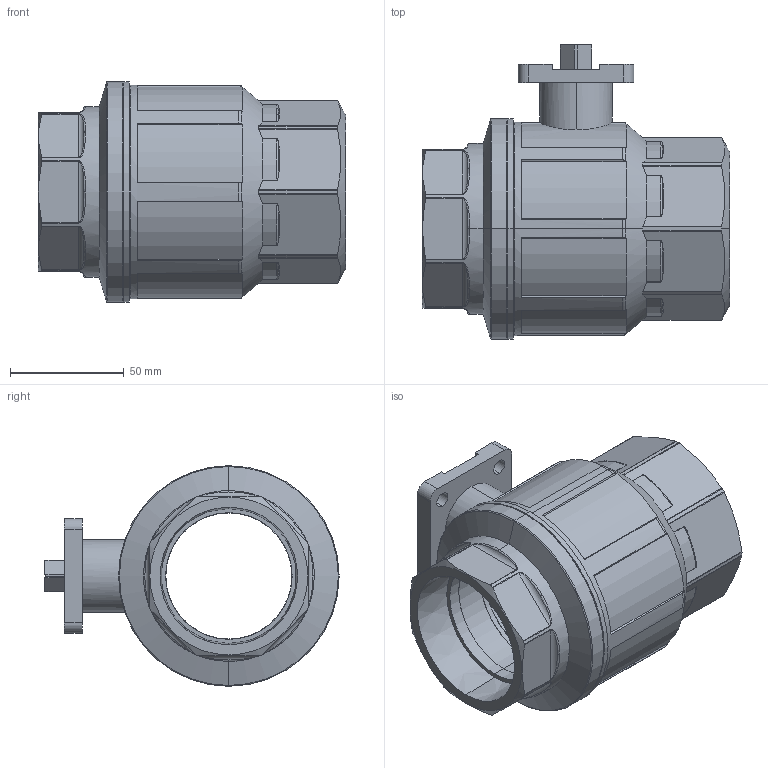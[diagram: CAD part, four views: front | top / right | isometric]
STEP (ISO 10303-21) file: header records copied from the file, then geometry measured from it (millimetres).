
FILE_DESCRIPTION (( 'STEP AP203' ), '1' );
FILE_NAME ('s2f-16.STEP', '2022-07-12T15:49:16', ( '' ), ( '' ), 'SwSTEP 2.0', 'SolidWorks 2021', '' );
FILE_SCHEMA (( 'CONFIG_CONTROL_DESIGN' ));
Length unit declared in the file: inch
Products named in the file (1): s2f-16
Bounding box: 134.87 x 129.12 x 96.77 mm (x, y, z)
Volume: 446060.2 mm3; surface area: 106652.5 mm2
Topology: 3 solids, 3 shells, 317 faces, 845 edges, 539 vertices
Faces by surface type: cylinder 140, plane 103, bspline 32, torus 23, cone 14, sphere 5
Entity records: 13094 total; most frequent: CARTESIAN_POINT 5495, ORIENTED_EDGE 1668, DIRECTION 1471, EDGE_CURVE 834, AXIS2_PLACEMENT_3D 583, VERTEX_POINT 533, EDGE_LOOP 343, FACE_OUTER_BOUND 317
